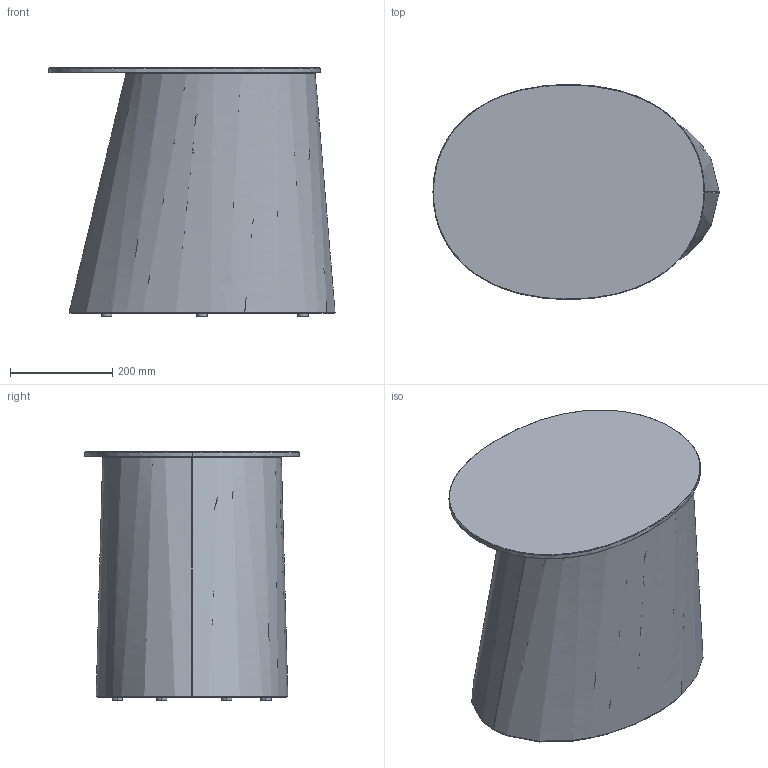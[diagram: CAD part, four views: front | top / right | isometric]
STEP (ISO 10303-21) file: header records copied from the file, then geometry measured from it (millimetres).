
FILE_DESCRIPTION(/* description */ (''),/* implementation_level */ '2;1');
FILE_NAME(/* name */ 'Pli-Side-Table-Low_3D_20231027',/* time_stamp */ '2023-10-27T14:22:01+02:00',/* author */ (''),/* organization */ (''),/* preprocessor_version */ 'ST-DEVELOPER v16.5',/* originating_system */ 'Rhino 7.34',/* authorisation */ '');
FILE_SCHEMA (('CONFIG_CONTROL_DESIGN'));
Length unit declared in the file: millimetre
Products named in the file (1): Document
Bounding box: 558.6 x 419.81 x 486 mm (x, y, z)
Surface area: 1779266.1 mm2
Topology: 3 solids, 4 shells, 140 faces, 386 edges, 246 vertices
Faces by surface type: plane 90, cylinder 36, bspline 14
Entity records: 49465 total; most frequent: CARTESIAN_POINT 46781, ORIENTED_EDGE 767, EDGE_CURVE 386, B_SPLINE_CURVE_WITH_KNOTS 314, VERTEX_POINT 246, EDGE_LOOP 168, ADVANCED_FACE 140, FACE_OUTER_BOUND 140
